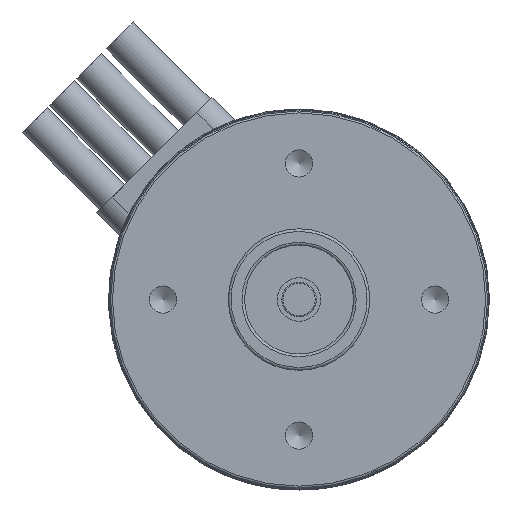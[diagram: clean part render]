
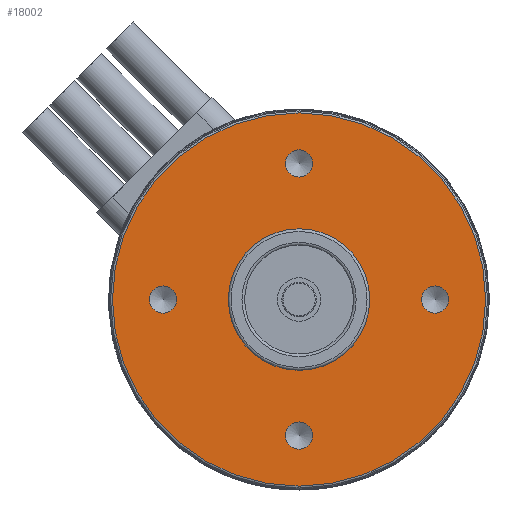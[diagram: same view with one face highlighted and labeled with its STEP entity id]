
A CAD part, left-side view. The second image highlights one B-rep face of the part: STEP entity #18002.
In plain terms, the highlighted planar face has unit normal (-1, 0, 0).
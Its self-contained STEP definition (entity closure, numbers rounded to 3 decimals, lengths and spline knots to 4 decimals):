
#891=PLANE('',#18971);
#2181=FACE_BOUND('',#4248,.T.);
#2182=FACE_BOUND('',#4249,.T.);
#2183=FACE_BOUND('',#4250,.T.);
#2184=FACE_BOUND('',#4251,.T.);
#2185=FACE_BOUND('',#4252,.T.);
#3175=FACE_OUTER_BOUND('',#4247,.T.);
#4247=EDGE_LOOP('',(#16902));
#4248=EDGE_LOOP('',(#16903));
#4249=EDGE_LOOP('',(#16904));
#4250=EDGE_LOOP('',(#16905));
#4251=EDGE_LOOP('',(#16906));
#4252=EDGE_LOOP('',(#16907));
#6651=CIRCLE('',#18271,0.6751);
#6655=CIRCLE('',#18276,0.0492);
#6657=CIRCLE('',#18279,0.0492);
#6660=CIRCLE('',#18283,0.0492);
#6663=CIRCLE('',#18287,0.0492);
#6664=CIRCLE('',#18289,0.2559);
#7614=VERTEX_POINT('',#27049);
#7617=VERTEX_POINT('',#27057);
#7619=VERTEX_POINT('',#27063);
#7622=VERTEX_POINT('',#27071);
#7625=VERTEX_POINT('',#27079);
#7626=VERTEX_POINT('',#27083);
#9458=EDGE_CURVE('',#7614,#7614,#6651,.T.);
#9463=EDGE_CURVE('',#7617,#7617,#6655,.T.);
#9466=EDGE_CURVE('',#7619,#7619,#6657,.T.);
#9470=EDGE_CURVE('',#7622,#7622,#6660,.T.);
#9474=EDGE_CURVE('',#7625,#7625,#6663,.T.);
#9475=EDGE_CURVE('',#7626,#7626,#6664,.T.);
#16902=ORIENTED_EDGE('',*,*,#9458,.F.);
#16903=ORIENTED_EDGE('',*,*,#9463,.T.);
#16904=ORIENTED_EDGE('',*,*,#9466,.T.);
#16905=ORIENTED_EDGE('',*,*,#9470,.T.);
#16906=ORIENTED_EDGE('',*,*,#9474,.T.);
#16907=ORIENTED_EDGE('',*,*,#9475,.T.);
#18002=ADVANCED_FACE('',(#3175,#2181,#2182,#2183,#2184,#2185),#891,.T.);
#18271=AXIS2_PLACEMENT_3D('',#27050,#19569,#19570);
#18276=AXIS2_PLACEMENT_3D('',#27059,#19580,#19581);
#18279=AXIS2_PLACEMENT_3D('',#27065,#19587,#19588);
#18283=AXIS2_PLACEMENT_3D('',#27073,#19596,#19597);
#18287=AXIS2_PLACEMENT_3D('',#27081,#19605,#19606);
#18289=AXIS2_PLACEMENT_3D('',#27084,#19609,#19610);
#18971=AXIS2_PLACEMENT_3D('',#49406,#21990,#21991);
#19569=DIRECTION('center_axis',(1.,0.,0.));
#19570=DIRECTION('ref_axis',(0.,0.,1.));
#19580=DIRECTION('center_axis',(1.,0.,0.));
#19581=DIRECTION('ref_axis',(0.,0.,1.));
#19587=DIRECTION('center_axis',(1.,0.,0.));
#19588=DIRECTION('ref_axis',(0.,0.,1.));
#19596=DIRECTION('center_axis',(1.,0.,0.));
#19597=DIRECTION('ref_axis',(0.,0.,1.));
#19605=DIRECTION('center_axis',(1.,0.,0.));
#19606=DIRECTION('ref_axis',(0.,0.,1.));
#19609=DIRECTION('center_axis',(1.,0.,0.));
#19610=DIRECTION('ref_axis',(0.,1.,0.));
#21990=DIRECTION('center_axis',(-1.,0.,0.));
#21991=DIRECTION('ref_axis',(0.,-1.,0.));
#27049=CARTESIAN_POINT('',(0.4528,0.,-0.6751));
#27050=CARTESIAN_POINT('Origin',(0.4528,0.,
0.));
#27057=CARTESIAN_POINT('',(0.4528,0.4921,-0.0492));
#27059=CARTESIAN_POINT('Origin',(0.4528,0.4921,0.));
#27063=CARTESIAN_POINT('',(0.4528,0.,-0.5413));
#27065=CARTESIAN_POINT('Origin',(0.4528,0.,
-0.4921));
#27071=CARTESIAN_POINT('',(0.4528,-0.4921,-0.0492));
#27073=CARTESIAN_POINT('Origin',(0.4528,-0.4921,0.));
#27079=CARTESIAN_POINT('',(0.4528,0.,0.4429));
#27081=CARTESIAN_POINT('Origin',(0.4528,0.,
0.4921));
#27083=CARTESIAN_POINT('',(0.4528,-0.2559,0.));
#27084=CARTESIAN_POINT('Origin',(0.4528,0.,
0.));
#49406=CARTESIAN_POINT('Origin',(0.4528,0.2559,0.));
